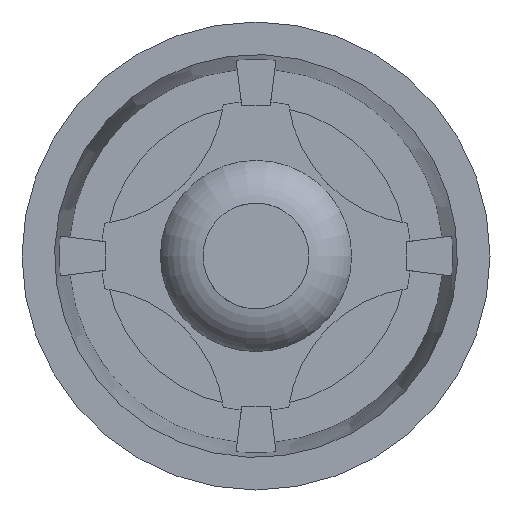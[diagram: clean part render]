
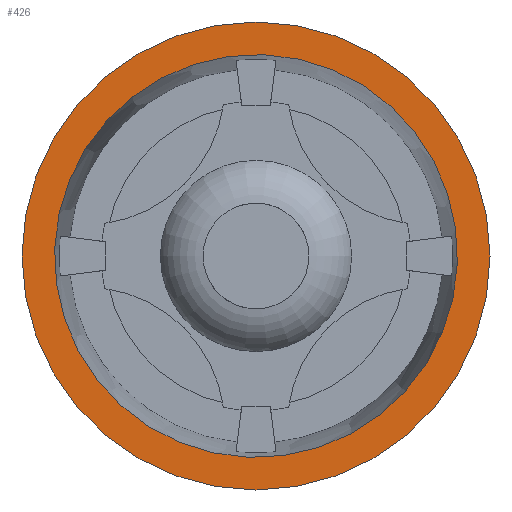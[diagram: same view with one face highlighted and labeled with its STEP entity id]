
A CAD part, front view. The second image highlights one B-rep face of the part: STEP entity #426.
In plain terms, the highlighted planar face has unit normal (0, -1, 0).
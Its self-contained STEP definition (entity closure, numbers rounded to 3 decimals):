
#426=ADVANCED_FACE('',(#8331,#8333),#8335,.T.);
#8331=FACE_BOUND('',#8332,.T.);
#8332=EDGE_LOOP('',(#17134));
#8333=FACE_BOUND('',#8334,.T.);
#8334=EDGE_LOOP('',(#17135));
#8335=PLANE('',#8336);
#8336=AXIS2_PLACEMENT_3D('',#8337,#8338,#8339);
#8337=CARTESIAN_POINT('',(3414.055,2051.998,0.));
#8338=DIRECTION('',(0.,-1.,0.));
#8339=DIRECTION('',(0.,0.,-1.));
#17134=ORIENTED_EDGE('',*,*,#22247,.T.);
#17135=ORIENTED_EDGE('',*,*,#22182,.F.);
#22182=EDGE_CURVE('',#25656,#25656,#25657,.T.);
#22247=EDGE_CURVE('',#25756,#25756,#25757,.T.);
#25656=VERTEX_POINT('',#33648);
#25657=CIRCLE('',#33649,49.5);
#25756=VERTEX_POINT('',#34099);
#25757=CIRCLE('',#34100,57.5);
#33648=CARTESIAN_POINT('',(3500.264,2051.998,-33.207));
#33649=AXIS2_PLACEMENT_3D('',#33650,#33651,#33652);
#33650=CARTESIAN_POINT('',(3463.555,2051.998,0.));
#33651=DIRECTION('',(0.,-1.,0.));
#33652=DIRECTION('',(-1.,0.,0.));
#34099=CARTESIAN_POINT('',(3521.055,2051.998,0.));
#34100=AXIS2_PLACEMENT_3D('',#34101,#34102,#34103);
#34101=CARTESIAN_POINT('',(3463.555,2051.998,0.));
#34102=DIRECTION('',(0.,-1.,0.));
#34103=DIRECTION('',(-1.,0.,0.));
